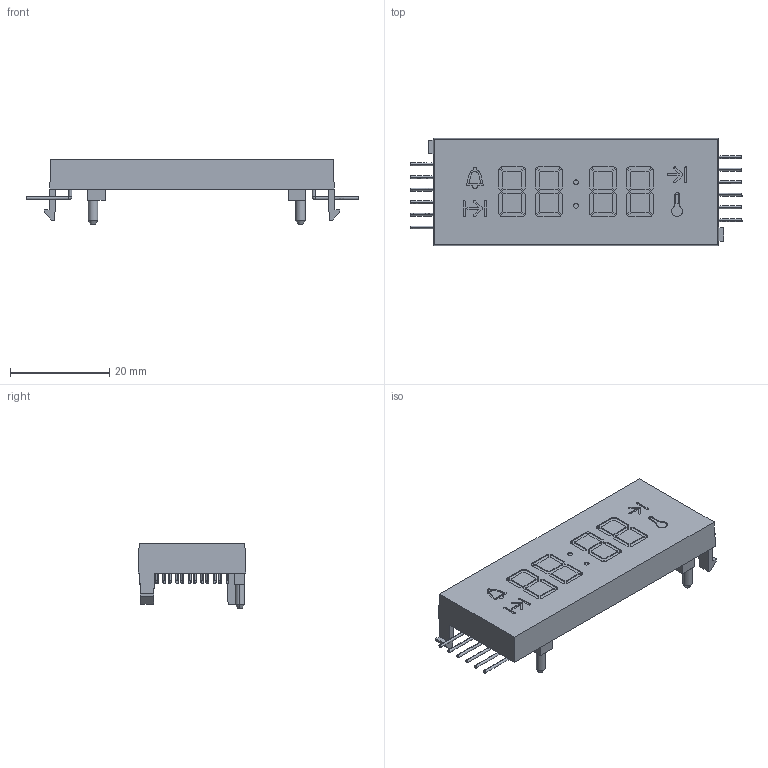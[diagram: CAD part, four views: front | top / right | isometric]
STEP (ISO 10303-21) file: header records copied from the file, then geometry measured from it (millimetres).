
FILE_DESCRIPTION (( 'STEP AP214' ), '1' );
FILE_NAME ('780118swp001.STEP', '2024-12-16T11:27:20', ( '' ), ( '' ), 'SwSTEP 2.0', 'SolidWorks 2020', '' );
FILE_SCHEMA (( 'AUTOMOTIVE_DESIGN' ));
Length unit declared in the file: millimetre
Products named in the file (1): 780118swp001
Bounding box: 66.9 x 21.72 x 13.2 mm (x, y, z)
Volume: 7510.8 mm3; surface area: 3980.5 mm2
Topology: 1 solids, 13 shells, 676 faces, 1739 edges, 1122 vertices
Faces by surface type: plane 516, bspline 92, cylinder 64, cone 4
Entity records: 24837 total; most frequent: CARTESIAN_POINT 8543, ORIENTED_EDGE 3430, DIRECTION 2849, EDGE_CURVE 1715, LINE 1421, VECTOR 1421, VERTEX_POINT 1122, EDGE_LOOP 737
